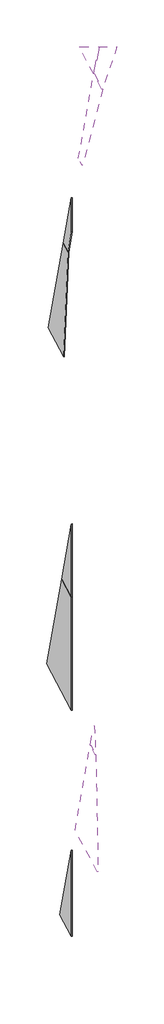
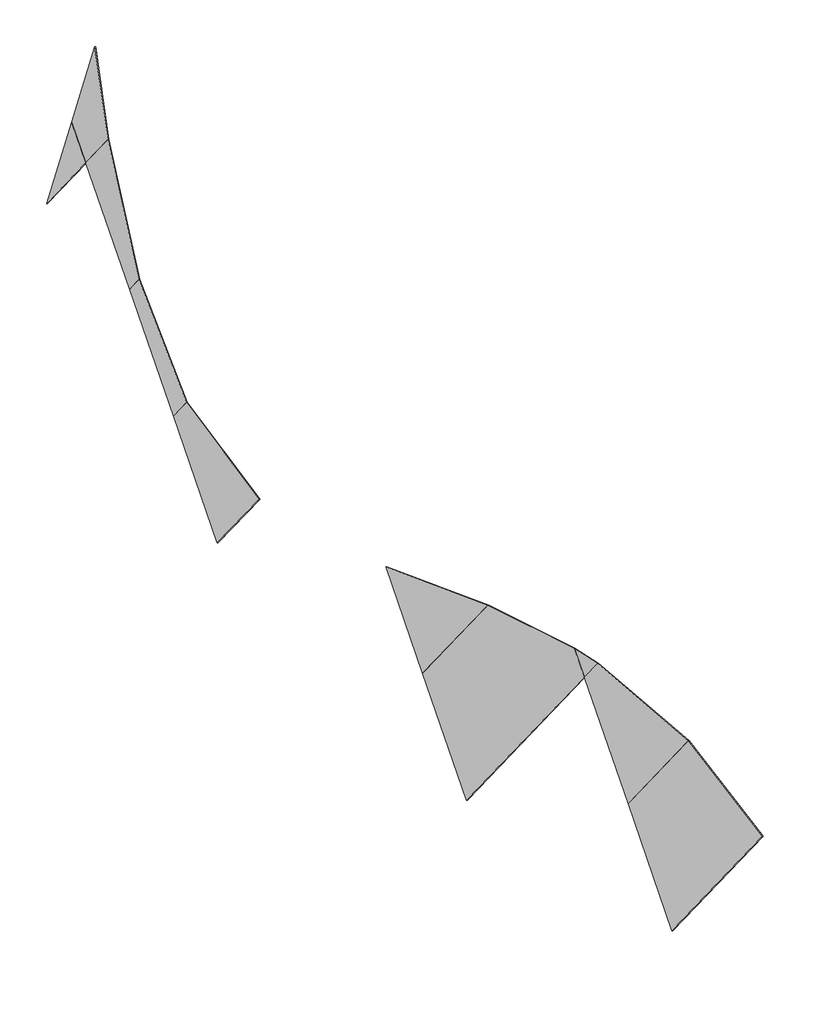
# One storey: 10 plates.
"""IFC4 building model written with IfcOpenShell, lengths in millimetres."""

import ifcopenshell
import ifcopenshell.guid

model = None  # the IFC model being written
_history = None  # IfcOwnerHistory: only IFC2X3 demands one
_inside = {}  # id of a spatial element -> (the spatial element, [elements in it])
_under = {}  # id of a project, library or spatial element -> (it, [spatial elements below it])
_declared = {}  # id of a project -> (the project, [libraries it declares])
_typed = {}  # id of a type object -> (the type object, [elements of that type])
_made_of = {}  # id of a material, layer set ... -> (it, [elements and type objects made of it])


def new_model(schema):
    """Start an empty IFC model of exactly this schema.

    Asked for "IFC4X3", IfcOpenShell would pick the latest addendum, in which some entities
    have other attributes; the version numbers below select the first issue.
    IFC2X3 requires an IfcOwnerHistory on every rooted entity: one is made here for all.
    """
    global model, _history
    if schema == "IFC4X3":
        model = ifcopenshell.file(schema_version=(4, 3, 0, 0))
    else:
        model = ifcopenshell.file(schema=schema)
    _inside.clear()
    _under.clear()
    _declared.clear()
    _typed.clear()
    _made_of.clear()
    _history = None
    if model.schema == "IFC2X3":
        org = make("IfcOrganization", Name="unknown")
        user = make(
            "IfcPersonAndOrganization",
            ThePerson=make("IfcPerson", FamilyName="unknown"),
            TheOrganization=org,
        )
        app = make(
            "IfcApplication",
            ApplicationDeveloper=org,
            Version="unknown",
            ApplicationFullName="unknown",
            ApplicationIdentifier="unknown",
        )
        _history = make(
            "IfcOwnerHistory",
            OwningUser=user,
            OwningApplication=app,
            ChangeAction="ADDED",
            CreationDate=0,
        )
    return model


def make(cls, **values):
    """One entity of the class cls with the attributes given. An attribute that is None is left unset."""
    return model.create_entity(
        cls, **{name: value for name, value in values.items() if value is not None}
    )


def rooted(cls, **values):
    """An entity with a GlobalId (a new one), such as an element, a storey or a relation."""
    return make(cls, GlobalId=ifcopenshell.guid.new(), OwnerHistory=_history, **values)


def si_unit(unit_type, name, prefix=None):
    """IfcSIUnit, for example si_unit("LENGTHUNIT", "METRE", prefix="MILLI")."""
    return make("IfcSIUnit", UnitType=unit_type, Prefix=prefix, Name=name)


def assignment(units):
    """IfcUnitAssignment: the units of a project."""
    return None if units is None else make("IfcUnitAssignment", Units=units)


def point(xyz):
    """IfcCartesianPoint."""
    return None if xyz is None else make("IfcCartesianPoint", Coordinates=xyz)


def direction(xyz):
    """IfcDirection."""
    return None if xyz is None else make("IfcDirection", DirectionRatios=xyz)


def frame(location, z_axis=None, x_axis=None):
    """IfcAxis2Placement3D, a coordinate frame: its origin and axes. An axis left out is left unset."""
    return make(
        "IfcAxis2Placement3D",
        Location=point(location),
        Axis=direction(z_axis),
        RefDirection=direction(x_axis),
    )


def origin():
    """The frame at (0, 0, 0) with its axes left unset."""
    return frame((0.0, 0.0, 0.0))


def place(relative_to, where):
    """IfcLocalPlacement: puts the frame where relative to a parent placement (None: the world)."""
    return make(
        "IfcLocalPlacement", PlacementRelTo=relative_to, RelativePlacement=where
    )


def context(
    kind, dimensions, precision=None, world=None, true_north=None, identifier=None
):
    """IfcGeometricRepresentationContext, for example the 3D "Model" context."""
    return make(
        "IfcGeometricRepresentationContext",
        ContextIdentifier=identifier,
        ContextType=kind,
        CoordinateSpaceDimension=dimensions,
        Precision=precision,
        WorldCoordinateSystem=world,
        TrueNorth=true_north,
    )


def project(units=None, contexts=None):
    """IfcProject with its units and contexts."""
    return rooted(
        "IfcProject",
        Name="project",
        RepresentationContexts=contexts,
        UnitsInContext=assignment(units),
    )


def spatial(cls, under=None, at=None, **own):
    """A site, building, storey or space (cls), placed at a placement, below another one or the project."""
    s = rooted(cls, ObjectPlacement=at, **own)
    if under is not None:
        _under.setdefault(under.id(), (under, []))[1].append(s)
    return s


def polyline(points):
    """IfcPolyline through the points."""
    return make("IfcPolyline", Points=[point(p) for p in points])


def outline(outer, holes=None, kind="AREA"):
    """IfcArbitraryClosedProfileDef: a profile drawn as a closed curve; with holes, ...WithVoids."""
    if holes is None:
        return make("IfcArbitraryClosedProfileDef", ProfileType=kind, OuterCurve=outer)
    return make(
        "IfcArbitraryProfileDefWithVoids",
        ProfileType=kind,
        OuterCurve=outer,
        InnerCurves=holes,
    )


def extrude(swept, where, along, depth):
    """IfcExtrudedAreaSolid: the profile swept, set in the frame where, extruded along a direction by depth."""
    return make(
        "IfcExtrudedAreaSolid",
        SweptArea=swept,
        Position=where,
        ExtrudedDirection=direction(along),
        Depth=depth,
    )


def shape(context_of_items, identifier, shape_type, items):
    """IfcShapeRepresentation: the items that make up one representation, for example the "Body"."""
    return make(
        "IfcShapeRepresentation",
        ContextOfItems=context_of_items,
        RepresentationIdentifier=identifier,
        RepresentationType=shape_type,
        Items=items,
    )


def source(mapping_origin, context_of_items, identifier, shape_type, items):
    """IfcRepresentationMap: a shape defined once, which mapped items show again and again."""
    return make(
        "IfcRepresentationMap",
        MappingOrigin=mapping_origin,
        MappedRepresentation=shape(context_of_items, identifier, shape_type, items),
    )


def transform(
    local_origin,
    x_axis=None,
    y_axis=None,
    z_axis=None,
    scale=None,
    scale2=None,
    scale3=None,
    uniform=True,
):
    """IfcCartesianTransformationOperator3D, or its non-uniform kind. x_axis, y_axis, z_axis: its Axis1, 2, 3."""
    if uniform:
        return make(
            "IfcCartesianTransformationOperator3D",
            Axis1=direction(x_axis),
            Axis2=direction(y_axis),
            LocalOrigin=point(local_origin),
            Scale=scale,
            Axis3=direction(z_axis),
        )
    return make(
        "IfcCartesianTransformationOperator3DnonUniform",
        Axis1=direction(x_axis),
        Axis2=direction(y_axis),
        LocalOrigin=point(local_origin),
        Scale=scale,
        Axis3=direction(z_axis),
        Scale2=scale2,
        Scale3=scale3,
    )


def mapped(mapping_source, mapping_target):
    """IfcMappedItem: shows the shape of a source again, moved by a transform."""
    return make(
        "IfcMappedItem", MappingSource=mapping_source, MappingTarget=mapping_target
    )


def made_of(thing, what):
    """Note that an element or type object is made of a material, layer set ...; save() writes the relation."""
    if what is not None:
        _made_of.setdefault(what.id(), (what, []))[1].append(thing)
    return thing


def element(
    cls,
    number,
    at=None,
    inside=None,
    cuts=None,
    type_object=None,
    material=None,
    context=None,
    identifier="Body",
    shape_type=None,
    held_by="IfcProductDefinitionShape",
    body=None,
    shapes=None,
    **own,
):
    """One element of the class cls, such as IfcWall. Its Tag is "e" and its number.

    at: its placement. inside: the storey or other place that contains it. cuts: it is an
    opening in that element (IfcRelVoidsElement). A single representation is given by context,
    identifier, shape_type and body (its items); several are given by shapes. held_by: the class
    of the entity that holds the representations. save() writes the other relations.
    """
    e = rooted(cls, Tag="e%d" % number, ObjectPlacement=at, **own)
    if body is not None:
        shapes = [shape(context, identifier, shape_type, body)]
    if shapes is not None:
        e.Representation = make(held_by, Representations=shapes)
    if inside is not None:
        _inside.setdefault(inside.id(), (inside, []))[1].append(e)
    if cuts is not None:
        rooted(
            "IfcRelVoidsElement", RelatingBuildingElement=cuts, RelatedOpeningElement=e
        )
    if type_object is not None:
        _typed.setdefault(type_object.id(), (type_object, []))[1].append(e)
    return made_of(e, material)


def aggregate(whole, parts):
    """IfcRelAggregates: a whole, such as a stair, and the parts it consists of."""
    return rooted("IfcRelAggregates", RelatingObject=whole, RelatedObjects=parts)


def save(model, path):
    """Write the relations noted so far, then the file.

    IfcRelAggregates (storeys below a building ...), IfcRelContainedInSpatialStructure (elements
    in a storey), IfcRelDefinesByType, IfcRelAssociatesMaterial and IfcRelDeclares: one each for
    every whole, place, type object, material and project.
    """
    for whole, parts in _under.values():
        aggregate(whole, parts)
    for where, things in _inside.values():
        rooted(
            "IfcRelContainedInSpatialStructure",
            RelatedElements=things,
            RelatingStructure=where,
        )
    for kind, things in _typed.values():
        rooted("IfcRelDefinesByType", RelatedObjects=things, RelatingType=kind)
    for what, things in _made_of.values():
        rooted("IfcRelAssociatesMaterial", RelatedObjects=things, RelatingMaterial=what)
    for by, libraries in _declared.values():
        rooted("IfcRelDeclares", RelatingContext=by, RelatedDefinitions=libraries)
    model.write(path)


def plate_247c635d(model_context):
    return source(origin(), model_context, "Body", "SweptSolid", [
        extrude(outline(polyline([(0.0, -631.3057619), (1387.6600704, 631.3057619), (1387.6600704, -631.3057619), (0.0, -631.3057619)])), frame((0.0, -5.0, 0.0), z_axis=(0.0, 1.0, 0.0), x_axis=(0.0, 0.0, 1.0)), (0.0, 0.0, 1.0), 10.0),
    ])


def plate_214799c7(model_context):
    return source(origin(), model_context, "Body", "SweptSolid", [
        extrude(outline(polyline([(0.0, -750.0), (0.0, -406.7688559), (1112.3399296, 750.0), (2500.0, 750.0), (2500.0, -750.0), (0.0, -750.0)])), frame((0.0, -5.0, 0.0), z_axis=(0.0, 1.0, 0.0), x_axis=(0.0, 0.0, 1.0)), (0.0, 0.0, 1.0), 10.0),
    ])


def plate_dcc8efd3(model_context):
    return source(origin(), model_context, "Body", "SweptSolid", [
        extrude(outline(polyline([(0.0, -750.0), (608.901049, 750.0), (887.5306048, 750.0), (887.5306048, -750.0), (0.0, -750.0)])), frame((0.0, -5.0, 0.0), z_axis=(0.0, 1.0, 0.0), x_axis=(0.0, 0.0, 1.0)), (0.0, 0.0, 1.0), 10.0),
    ])


def plate_363c17fb(model_context):
    return source(origin(), model_context, "Body", "SweptSolid", [
        extrude(outline(polyline([(0.0, -750.0), (76.2084373, 750.0), (278.6295558, 750.0), (278.6295558, -750.0), (0.0, -750.0)])), frame((0.0, -5.0, 0.0), z_axis=(0.0, 1.0, 0.0), x_axis=(0.0, 0.0, 1.0)), (0.0, 0.0, 1.0), 10.0),
    ])


def plate_77a90979(model_context):
    return source(origin(), model_context, "Body", "SweptSolid", [
        extrude(outline(polyline([(271.4911622, -750.0), (0.0, 750.0), (473.9122807, 750.0), (473.9122807, -750.0), (271.4911622, -750.0)])), frame((0.0, -5.0, 0.0), z_axis=(0.0, 1.0, 0.0), x_axis=(0.0, 0.0, 1.0)), (0.0, 0.0, 1.0), 10.0),
    ])


def plate_8617dbf4(model_context):
    return source(origin(), model_context, "Body", "SweptSolid", [
        extrude(outline(polyline([(0.0, -240.3810568), (0.0, 240.3810568), (832.704407, -240.3810568), (0.0, -240.3810568)])), frame((0.0, -5.0, 0.0), z_axis=(0.0, 1.0, 0.0), x_axis=(0.0, 0.0, 1.0)), (0.0, 0.0, 1.0), 10.0),
    ])


def plate_837821df(model_context):
    return source(origin(), model_context, "Body", "SweptSolid", [
        extrude(outline(polyline([(294.4213373, -462.1798674), (0.0, 462.1798674), (768.333618, 18.5822462), (768.333618, -462.1798674), (294.4213373, -462.1798674)])), frame((0.0, -5.0, 0.0), z_axis=(0.0, 1.0, 0.0), x_axis=(0.0, 0.0, 1.0)), (0.0, 0.0, 1.0), 10.0),
    ])


def plate_3192af7a(model_context):
    return source(origin(), model_context, "Body", "SweptSolid", [
        extrude(outline(polyline([(0.0, -750.0), (637.3757322, 750.0), (1919.7942483, 750.0), (1919.7942483, -750.0), (0.0, -750.0)])), frame((0.0, -5.0, 0.0), z_axis=(0.0, 1.0, 0.0), x_axis=(0.0, 0.0, 1.0)), (0.0, 0.0, 1.0), 10.0),
    ])


def plate_a386497d(model_context):
    return source(origin(), model_context, "Body", "SweptSolid", [
        extrude(outline(polyline([(0.0, -750.0), (997.4265021, 750.0), (1282.4185161, 750.0), (1282.4185161, -750.0), (0.0, -750.0)])), frame((0.0, -5.0, 0.0), z_axis=(0.0, 1.0, 0.0), x_axis=(0.0, 0.0, 1.0)), (0.0, 0.0, 1.0), 10.0),
    ])


def plate_47102507(model_context):
    return source(origin(), model_context, "Body", "SweptSolid", [
        extrude(outline(polyline([(284.992014, -171.6155721), (0.0, -171.6155721), (284.992014, 171.6155721), (284.992014, -171.6155721)])), frame((0.0, -5.0, 0.0), z_axis=(0.0, 1.0, 0.0), x_axis=(0.0, 0.0, 1.0)), (0.0, 0.0, 1.0), 10.0),
    ])


model = new_model("IFC4")

# Units and contexts
model_context = context("Model", 3, world=origin())
ifc_project = project(units=[si_unit("LENGTHUNIT", "METRE", prefix="MILLI")], contexts=[model_context])

# Site, building, storey
site = spatial("IfcSite", under=ifc_project)
building = spatial("IfcBuilding", under=site)
storey = spatial("IfcBuildingStorey", under=building, Name="樓層 5", Elevation=14000.0)

# Plates
placement = place(None, origin())
plate_shape = plate_247c635d(model_context)
element("IfcPlate", 1, ObjectType="系統嵌板 : 玻璃 1.0cm", at=placement, inside=storey, context=model_context, shape_type="MappedRepresentation", body=[
    mapped(plate_shape, transform((-7253.5940368, 2616.5347646, 16179.936749), x_axis=(0.15450849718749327, 0.8660254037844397, 0.4755282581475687), y_axis=(0.9510565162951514, 0.0, -0.3090169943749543), z_axis=(-0.2676165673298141, 0.4999999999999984, -0.8236391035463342))),
])
plate_2_shape = plate_214799c7(model_context)
element("IfcPlate", 2, ObjectType="系統嵌板 : 玻璃 1.0cm", at=placement, inside=storey, context=model_context, shape_type="MappedRepresentation", body=[
    mapped(plate_2_shape, transform((-7169.3369206, 864.1189196, 16439.2534885), x_axis=(0.15450849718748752, 0.8660254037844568, 0.4755282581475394), y_axis=(0.9510565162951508, 0.0, -0.3090169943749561), z_axis=(-0.26761656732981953, 0.4999999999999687, -0.8236391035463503))),
])
plate_3_shape = plate_dcc8efd3(model_context)
element("IfcPlate", 3, ObjectType="系統嵌板 : 玻璃 1.0cm", at=placement, inside=storey, context=model_context, shape_type="MappedRepresentation", body=[
    mapped(plate_3_shape, transform((-7574.613626, 6817.4679342, 15191.9400441), x_axis=(0.15450849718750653, 0.8660254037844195, 0.475528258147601), y_axis=(0.9510565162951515, 0.0, -0.30901699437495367), z_axis=(-0.2676165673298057, 0.5000000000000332, -0.8236391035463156))),
])
plate_4_shape = plate_363c17fb(model_context)
element("IfcPlate", 4, ObjectType="系統嵌板 : 玻璃 1.0cm", at=placement, inside=storey, context=model_context, shape_type="MappedRepresentation", body=[
    mapped(plate_4_shape, transform((-7505.8028888, 8420.9565644, 15403.7177172), x_axis=(0.15450849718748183, 0.8660254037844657, 0.4755282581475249), y_axis=(0.9510565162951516, 0.0, -0.3090169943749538), z_axis=(-0.26761656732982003, 0.49999999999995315, -0.8236391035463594))),
])
plate_5_shape = plate_77a90979(model_context)
element("IfcPlate", 5, ObjectType="系統嵌板 : 玻璃 1.0cm", at=placement, inside=storey, context=model_context, shape_type="MappedRepresentation", body=[
    mapped(plate_5_shape, transform((-7221.7792505, 9622.3533076, 16277.8525929), x_axis=(0.15450849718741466, 0.8660254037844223, 0.47552825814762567), y_axis=(0.9510565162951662, 0.0, -0.30901699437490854), z_axis=(-0.2676165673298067, 0.5000000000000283, -0.8236391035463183))),
])
plate_6_shape = plate_8617dbf4(model_context)
element("IfcPlate", 6, ObjectType="系統嵌板 : 玻璃 1.0cm", at=placement, inside=storey, context=model_context, shape_type="MappedRepresentation", body=[
    mapped(plate_6_shape, transform((-7195.5837396, 10717.0046025, 16358.4740857), x_axis=(0.15450849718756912, 0.8660254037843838, 0.4755282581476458), y_axis=(0.9510565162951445, 0.0, -0.30901699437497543), z_axis=(-0.2676165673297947, 0.5000000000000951, -0.8236391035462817))),
])
plate_7_shape = plate_837821df(model_context)
element("IfcPlate", 7, ObjectType="系統嵌板 : 玻璃 1.0cm", at=placement, inside=storey, context=model_context, shape_type="MappedRepresentation", body=[
    mapped(plate_7_shape, transform((-6955.6951333, 10524.921198, 17096.7753002), x_axis=(0.1545084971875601, 0.8660254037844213, 0.47552825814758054), y_axis=(0.9510565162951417, 0.0, -0.3090169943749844), z_axis=(-0.26761656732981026, 0.5000000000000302, -0.8236391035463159))),
])
plate_8_shape = plate_3192af7a(model_context)
element("IfcPlate", 8, ObjectType="系統嵌板 : 玻璃 1.0cm", at=placement, inside=storey, context=model_context, shape_type="MappedRepresentation", body=[
    mapped(plate_8_shape, transform((-7119.0936654, -2693.8544159, 16593.8863277), x_axis=(0.1545084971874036, 0.8660254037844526, 0.47552825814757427), y_axis=(0.9510565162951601, 0.0, -0.3090169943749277), z_axis=(-0.2676165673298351, 0.49999999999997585, -0.8236391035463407))),
])
plate_9_shape = plate_a386497d(model_context)
element("IfcPlate", 9, ObjectType="系統嵌板 : 玻璃 1.0cm", at=placement, inside=storey, context=model_context, shape_type="MappedRepresentation", body=[
    mapped(plate_9_shape, transform((-7057.9032252, -1076.1284442, 16782.2111383), x_axis=(0.15450849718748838, 0.8660254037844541, 0.47552825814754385), y_axis=(0.9510565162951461, 0.0, -0.30901699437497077), z_axis=(-0.26761656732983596, 0.49999999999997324, -0.8236391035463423))),
])
plate_10_shape = plate_47102507(model_context)
element("IfcPlate", 10, ObjectType="系統嵌板 : 玻璃 1.0cm", at=placement, inside=storey, context=model_context, shape_type="MappedRepresentation", body=[
    mapped(plate_10_shape, transform((-7182.4336448, 220.7273048, 16398.9459159), x_axis=(0.1545084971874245, 0.8660254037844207, 0.47552825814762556), y_axis=(0.951056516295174, 0.0, -0.30901699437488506), z_axis=(-0.2676165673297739, 0.5000000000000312, -0.8236391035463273))),
])

save(model, "model.ifc")
